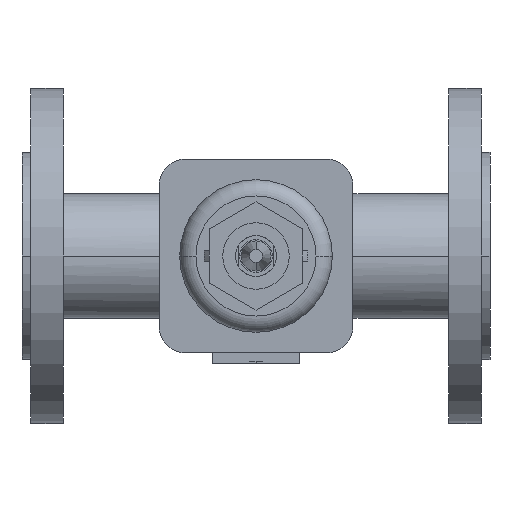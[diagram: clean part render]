
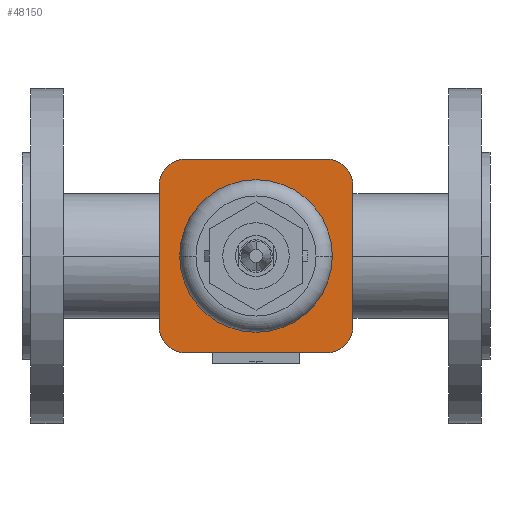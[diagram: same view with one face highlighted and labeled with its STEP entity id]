
A CAD part, front view. The second image highlights one B-rep face of the part: STEP entity #48150.
In plain terms, the highlighted planar face has unit normal (0, -1, 0).
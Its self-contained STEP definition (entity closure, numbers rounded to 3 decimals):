
#14850=CARTESIAN_POINT('',(77.5,-87.,0.));
#14860=VERTEX_POINT('',#14850);
#14940=CARTESIAN_POINT('',(152.5,-87.,0.));
#14950=VERTEX_POINT('',#14940);
#14980=CARTESIAN_POINT('',(115.,-87.,0.));
#14990=DIRECTION('',(0.,-1.,0.));
#15000=DIRECTION('',(-1.,0.,0.));
#15010=AXIS2_PLACEMENT_3D('',#14980,#14990,#15000);
#15020=CIRCLE('',#15010,37.5);
#15030=EDGE_CURVE('',#14860,#14950,#15020,.T.);
#39730=CARTESIAN_POINT('',(162.648,-87.,
34.648));
#39740=VERTEX_POINT('',#39730);
#39770=CARTESIAN_POINT('',(149.648,-87.,34.648));
#39780=DIRECTION('',(0.,-1.,0.));
#39790=DIRECTION('',(0.,0.,1.));
#39800=AXIS2_PLACEMENT_3D('',#39770,#39780,#39790);
#39810=CIRCLE('',#39800,13.);
#39820=CARTESIAN_POINT('',(149.648,-87.,47.648));
#39830=VERTEX_POINT('',#39820);
#39840=EDGE_CURVE('',#39740,#39830,#39810,.T.);
#41240=CARTESIAN_POINT('',(80.352,-87.,47.648));
#41250=VERTEX_POINT('',#41240);
#41280=CARTESIAN_POINT('',(80.352,-87.,34.648));
#41290=DIRECTION('',(0.,-1.,0.));
#41300=DIRECTION('',(-1.,0.,0.));
#41310=AXIS2_PLACEMENT_3D('',#41280,#41290,#41300);
#41320=CIRCLE('',#41310,13.);
#41330=CARTESIAN_POINT('',(67.352,-87.,34.648));
#41340=VERTEX_POINT('',#41330);
#41350=EDGE_CURVE('',#41250,#41340,#41320,.T.);
#42290=CARTESIAN_POINT('',(80.352,-87.,-47.648));
#42300=VERTEX_POINT('',#42290);
#42330=CARTESIAN_POINT('',(107.199,-87.,-47.648));
#42340=DIRECTION('',(1.,0.,0.));
#42350=VECTOR('',#42340,1.);
#42360=LINE('',#42330,#42350);
#42370=CARTESIAN_POINT('',(149.648,-87.,-47.648));
#42380=VERTEX_POINT('',#42370);
#42390=EDGE_CURVE('',#42300,#42380,#42360,.T.);
#42670=CARTESIAN_POINT('',(162.648,-87.,
-34.648));
#42680=VERTEX_POINT('',#42670);
#42710=CARTESIAN_POINT('',(162.648,-87.,
17.324));
#42720=DIRECTION('',(0.,0.,1.));
#42730=VECTOR('',#42720,1.);
#42740=LINE('',#42710,#42730);
#42750=EDGE_CURVE('',#42680,#39740,#42740,.T.);
#43180=CARTESIAN_POINT('',(149.648,-87.,-34.648));
#43190=DIRECTION('',(0.,-1.,0.));
#43200=DIRECTION('',(1.,0.,0.));
#43210=AXIS2_PLACEMENT_3D('',#43180,#43190,#43200);
#43220=CIRCLE('',#43210,13.);
#43230=EDGE_CURVE('',#42380,#42680,#43220,.T.);
#43460=CARTESIAN_POINT('',(67.352,-87.,-34.648));
#43470=VERTEX_POINT('',#43460);
#43500=CARTESIAN_POINT('',(80.352,-87.,-34.648));
#43510=DIRECTION('',(0.,-1.,0.));
#43520=DIRECTION('',(0.,0.,-1.));
#43530=AXIS2_PLACEMENT_3D('',#43500,#43510,#43520);
#43540=CIRCLE('',#43530,13.);
#43550=EDGE_CURVE('',#43470,#42300,#43540,.T.);
#47850=CARTESIAN_POINT('',(64.75,-87.,0.));
#47860=DIRECTION('',(0.,-1.,0.));
#47870=DIRECTION('',(-1.,0.,0.));
#47880=AXIS2_PLACEMENT_3D('',#47850,#47860,#47870);
#47890=PLANE('',#47880);
#47900=ORIENTED_EDGE('',*,*,#41350,.T.);
#47910=CARTESIAN_POINT('',(72.551,-87.,47.648));
#47920=DIRECTION('',(-1.,0.,0.));
#47930=VECTOR('',#47920,1.);
#47940=LINE('',#47910,#47930);
#47950=EDGE_CURVE('',#39830,#41250,#47940,.T.);
#47960=ORIENTED_EDGE('',*,*,#47950,.T.);
#47970=ORIENTED_EDGE('',*,*,#39840,.T.);
#47980=ORIENTED_EDGE('',*,*,#42750,.T.);
#47990=ORIENTED_EDGE('',*,*,#43230,.T.);
#48000=ORIENTED_EDGE('',*,*,#42390,.T.);
#48010=ORIENTED_EDGE('',*,*,#43550,.T.);
#48020=CARTESIAN_POINT('',(67.352,-87.,-17.324));
#48030=DIRECTION('',(0.,0.,-1.));
#48040=VECTOR('',#48030,1.);
#48050=LINE('',#48020,#48040);
#48060=EDGE_CURVE('',#41340,#43470,#48050,.T.);
#48070=ORIENTED_EDGE('',*,*,#48060,.T.);
#48080=EDGE_LOOP('',(#48070,#48010,#48000,#47990,#47980,#47970,#47960,
#47900));
#48090=FACE_OUTER_BOUND('',#48080,.T.);
#48100=EDGE_CURVE('',#14950,#14860,#15020,.T.);
#48110=ORIENTED_EDGE('',*,*,#48100,.F.);
#48120=ORIENTED_EDGE('',*,*,#15030,.F.);
#48130=EDGE_LOOP('',(#48120,#48110));
#48140=FACE_BOUND('',#48130,.T.);
#48150=ADVANCED_FACE('',(#48090,#48140),#47890,.T.);
